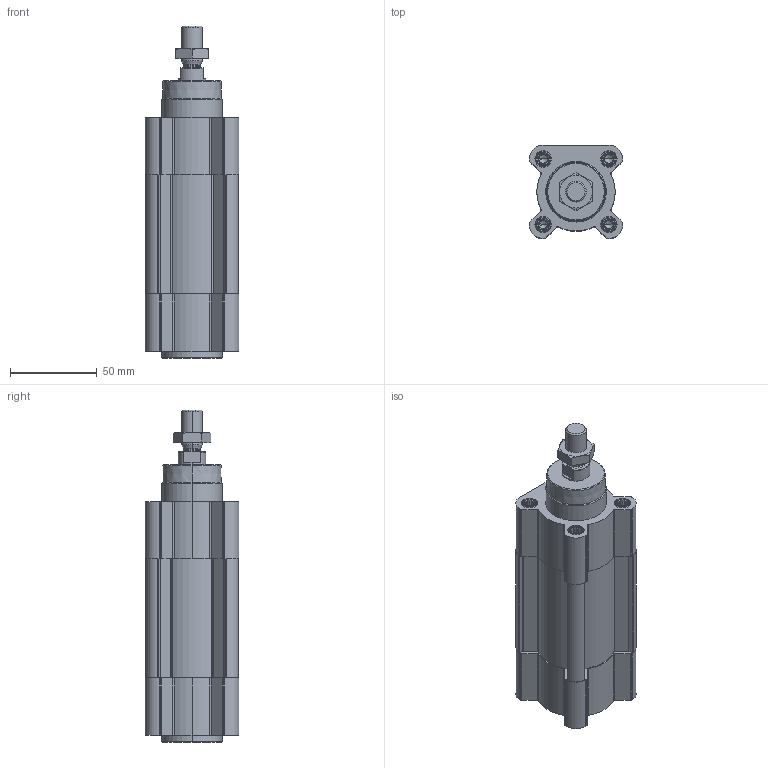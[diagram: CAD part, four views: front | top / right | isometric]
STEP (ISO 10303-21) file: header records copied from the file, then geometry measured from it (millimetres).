
FILE_DESCRIPTION (( 'STEP AP203' ), '1' );
FILE_NAME ('CPME40-30.STEP', '2023-03-30T13:32:02', ( '' ), ( '' ), 'SwSTEP 2.0', 'SolidWorks 2019', '' );
FILE_SCHEMA (( 'CONFIG_CONTROL_DESIGN' ));
Length unit declared in the file: millimetre
Products named in the file (1): CPME40-30
Bounding box: 54 x 54 x 191.9 mm (x, y, z)
Volume: 289659 mm3; surface area: 77431.8 mm2
Topology: 3 solids, 3 shells, 629 faces, 1625 edges, 1030 vertices
Faces by surface type: plane 319, cylinder 196, cone 106, torus 8
Entity records: 19673 total; most frequent: CARTESIAN_POINT 4365, ORIENTED_EDGE 3218, DIRECTION 3129, EDGE_CURVE 1609, AXIS2_PLACEMENT_3D 1113, VERTEX_POINT 1030, VECTOR 903, LINE 903
